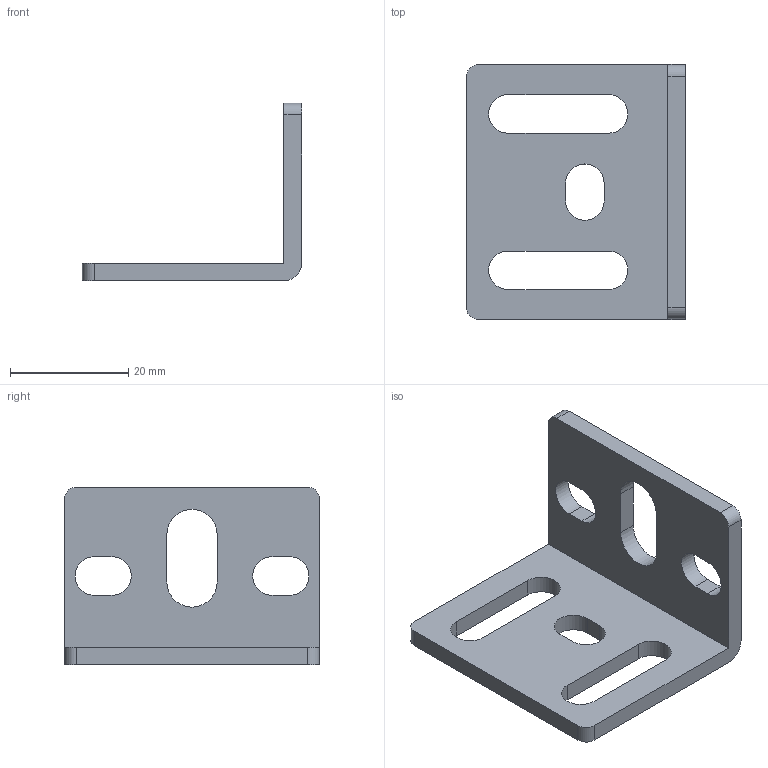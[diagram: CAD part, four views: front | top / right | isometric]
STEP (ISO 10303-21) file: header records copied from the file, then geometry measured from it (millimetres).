
FILE_DESCRIPTION (( 'STEP AP203' ), '1' );
FILE_NAME ('10085_BEFSTZSCH_ohneAnbindung.STEP', '2018-05-28T08:13:30', ( '' ), ( '' ), 'SwSTEP 2.0', 'SolidWorks 2017', '' );
FILE_SCHEMA (( 'CONFIG_CONTROL_DESIGN' ));
Length unit declared in the file: millimetre
Products named in the file (1): 10085_BEFSTZSCH_ohneAnbindung
Bounding box: 37 x 43 x 30 mm (x, y, z)
Volume: 6451.5 mm3; surface area: 5621.3 mm2
Topology: 1 solids, 1 shells, 41 faces, 117 edges, 78 vertices
Faces by surface type: cylinder 21, plane 20
Entity records: 1454 total; most frequent: DIRECTION 243, CARTESIAN_POINT 237, ORIENTED_EDGE 234, EDGE_CURVE 117, AXIS2_PLACEMENT_3D 84, VERTEX_POINT 78, VECTOR 75, LINE 75
